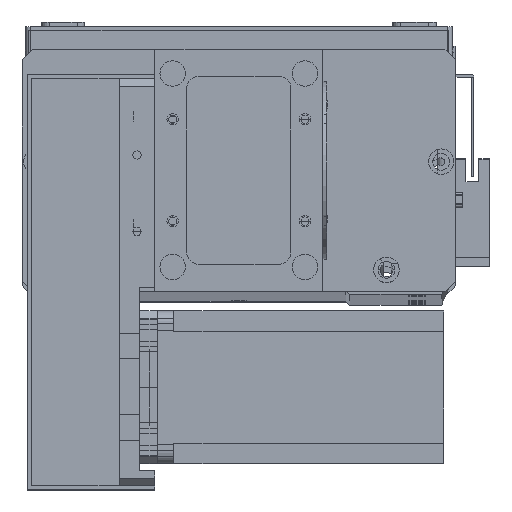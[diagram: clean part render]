
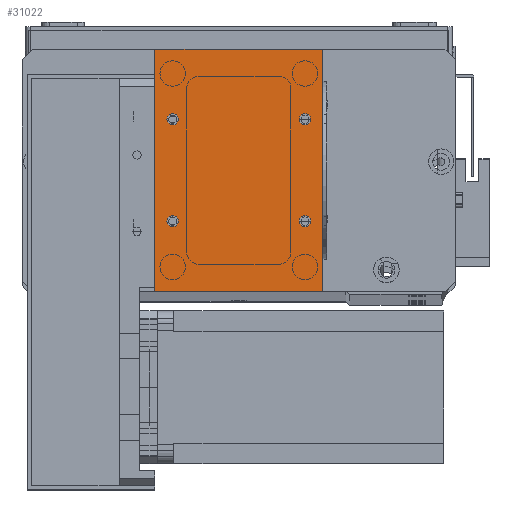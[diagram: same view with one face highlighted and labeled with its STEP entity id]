
A CAD part, top view. The second image highlights one B-rep face of the part: STEP entity #31022.
In plain terms, the highlighted planar face has unit normal (0, 0, 1).
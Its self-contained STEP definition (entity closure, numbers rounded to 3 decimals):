
#155 = AXIS2_PLACEMENT_3D ( 'NONE', #22989, #19580, #27764 ) ;
#1109 = VERTEX_POINT ( 'NONE', #24146 ) ;
#1481 = DIRECTION ( 'NONE',  ( 1., 0., 0. ) ) ;
#1488 = EDGE_CURVE ( 'NONE', #21375, #29492, #14587, .T. ) ;
#2319 = DIRECTION ( 'NONE',  ( 0., 0., 1. ) ) ;
#2461 = CIRCLE ( 'NONE', #17019, 2.25 ) ;
#2514 = ORIENTED_EDGE ( 'NONE', *, *, #10980, .F. ) ;
#2629 = EDGE_CURVE ( 'NONE', #1109, #15066, #19060, .T. ) ;
#3374 = PLANE ( 'NONE',  #11447 ) ;
#3897 = DIRECTION ( 'NONE',  ( 1., 0., 0. ) ) ;
#4209 = EDGE_CURVE ( 'NONE', #15066, #1109, #9950, .T. ) ;
#4923 = CARTESIAN_POINT ( 'NONE',  ( 7., 67.5, 2. ) ) ;
#5077 = CARTESIAN_POINT ( 'NONE',  ( 0., 0., 2. ) ) ;
#5489 = EDGE_CURVE ( 'NONE', #29492, #21375, #2461, .T. ) ;
#5652 = FACE_BOUND ( 'NONE', #31717, .T. ) ;
#5748 = EDGE_CURVE ( 'NONE', #11656, #25660, #26626, .T. ) ;
#5857 = CARTESIAN_POINT ( 'NONE',  ( 66., 95., 2. ) ) ;
#5942 = ORIENTED_EDGE ( 'NONE', *, *, #5489, .F. ) ;
#6021 = DIRECTION ( 'NONE',  ( 0., 0., -1. ) ) ;
#6047 = DIRECTION ( 'NONE',  ( 0., 0., 1. ) ) ;
#6307 = DIRECTION ( 'NONE',  ( 0., 0., 1. ) ) ;
#6512 = FACE_BOUND ( 'NONE', #16276, .T. ) ;
#7662 = CARTESIAN_POINT ( 'NONE',  ( 4.75, 27.5, 2. ) ) ;
#7937 = AXIS2_PLACEMENT_3D ( 'NONE', #22034, #6307, #24636 ) ;
#8083 = CARTESIAN_POINT ( 'NONE',  ( 0., 95., 2. ) ) ;
#8193 = AXIS2_PLACEMENT_3D ( 'NONE', #21782, #6047, #24391 ) ;
#9189 = DIRECTION ( 'NONE',  ( 0., 0., 1. ) ) ;
#9245 = AXIS2_PLACEMENT_3D ( 'NONE', #4923, #31969, #20695 ) ;
#9507 = VERTEX_POINT ( 'NONE', #23368 ) ;
#9717 = VECTOR ( 'NONE', #17451, 1000. ) ;
#9752 = ORIENTED_EDGE ( 'NONE', *, *, #4209, .F. ) ;
#9950 = CIRCLE ( 'NONE', #22058, 2.25 ) ;
#10127 = AXIS2_PLACEMENT_3D ( 'NONE', #11070, #11040, #11033 ) ;
#10976 = EDGE_CURVE ( 'NONE', #25660, #15373, #25079, .T. ) ;
#10980 = EDGE_CURVE ( 'NONE', #29243, #9507, #17306, .T. ) ;
#11033 = DIRECTION ( 'NONE',  ( 1., 0., 0. ) ) ;
#11040 = DIRECTION ( 'NONE',  ( 0., 0., 1. ) ) ;
#11070 = CARTESIAN_POINT ( 'NONE',  ( 59., 67.5, 2. ) ) ;
#11311 = VERTEX_POINT ( 'NONE', #7662 ) ;
#11344 = LINE ( 'NONE', #27562, #24454 ) ;
#11447 = AXIS2_PLACEMENT_3D ( 'NONE', #21747, #6021, #24369 ) ;
#11656 = VERTEX_POINT ( 'NONE', #5857 ) ;
#12174 = ORIENTED_EDGE ( 'NONE', *, *, #32297, .T. ) ;
#12643 = FACE_OUTER_BOUND ( 'NONE', #12954, .T. ) ;
#12954 = EDGE_LOOP ( 'NONE', ( #29588, #12174, #27932, #23582 ) ) ;
#13298 = CIRCLE ( 'NONE', #24317, 2.25 ) ;
#13370 = VERTEX_POINT ( 'NONE', #20683 ) ;
#13685 = CARTESIAN_POINT ( 'NONE',  ( 61.25, 27.5, 2. ) ) ;
#14459 = CARTESIAN_POINT ( 'NONE',  ( 7., 67.5, 2. ) ) ;
#14587 = CIRCLE ( 'NONE', #9245, 2.25 ) ;
#15066 = VERTEX_POINT ( 'NONE', #30139 ) ;
#15373 = VERTEX_POINT ( 'NONE', #5077 ) ;
#16276 = EDGE_LOOP ( 'NONE', ( #5942, #29476 ) ) ;
#16690 = LINE ( 'NONE', #22606, #9717 ) ;
#17019 = AXIS2_PLACEMENT_3D ( 'NONE', #14459, #9189, #3897 ) ;
#17151 = CARTESIAN_POINT ( 'NONE',  ( 0., 0., 2. ) ) ;
#17249 = DIRECTION ( 'NONE',  ( 0., 0., 1. ) ) ;
#17306 = CIRCLE ( 'NONE', #155, 2.25 ) ;
#17451 = DIRECTION ( 'NONE',  ( 0., 1., 0. ) ) ;
#17743 = CIRCLE ( 'NONE', #8193, 2.25 ) ;
#18132 = VECTOR ( 'NONE', #20370, 1000. ) ;
#18542 = EDGE_CURVE ( 'NONE', #11311, #13370, #30299, .T. ) ;
#19060 = CIRCLE ( 'NONE', #10127, 2.25 ) ;
#19073 = ORIENTED_EDGE ( 'NONE', *, *, #19344, .F. ) ;
#19344 = EDGE_CURVE ( 'NONE', #13370, #11311, #17743, .T. ) ;
#19580 = DIRECTION ( 'NONE',  ( 0., 0., 1. ) ) ;
#19643 = FACE_BOUND ( 'NONE', #24034, .T. ) ;
#19887 = CARTESIAN_POINT ( 'NONE',  ( 66., 0., 2. ) ) ;
#20370 = DIRECTION ( 'NONE',  ( 0., -1., 0. ) ) ;
#20683 = CARTESIAN_POINT ( 'NONE',  ( 9.25, 27.5, 2. ) ) ;
#20695 = DIRECTION ( 'NONE',  ( 1., 0., 0. ) ) ;
#20868 = CARTESIAN_POINT ( 'NONE',  ( 59., 67.5, 2. ) ) ;
#21375 = VERTEX_POINT ( 'NONE', #25837 ) ;
#21747 = CARTESIAN_POINT ( 'NONE',  ( 0., 0., 2. ) ) ;
#21782 = CARTESIAN_POINT ( 'NONE',  ( 7., 27.5, 2. ) ) ;
#21830 = ORIENTED_EDGE ( 'NONE', *, *, #2629, .F. ) ;
#22034 = CARTESIAN_POINT ( 'NONE',  ( 7., 27.5, 2. ) ) ;
#22058 = AXIS2_PLACEMENT_3D ( 'NONE', #20868, #2319, #23265 ) ;
#22606 = CARTESIAN_POINT ( 'NONE',  ( 66., 0., 2. ) ) ;
#22708 = VERTEX_POINT ( 'NONE', #19887 ) ;
#22989 = CARTESIAN_POINT ( 'NONE',  ( 59., 27.5, 2. ) ) ;
#23265 = DIRECTION ( 'NONE',  ( 1., 0., 0. ) ) ;
#23368 = CARTESIAN_POINT ( 'NONE',  ( 56.75, 27.5, 2. ) ) ;
#23582 = ORIENTED_EDGE ( 'NONE', *, *, #5748, .T. ) ;
#24034 = EDGE_LOOP ( 'NONE', ( #21830, #9752 ) ) ;
#24146 = CARTESIAN_POINT ( 'NONE',  ( 61.25, 67.5, 2. ) ) ;
#24249 = EDGE_CURVE ( 'NONE', #9507, #29243, #13298, .T. ) ;
#24317 = AXIS2_PLACEMENT_3D ( 'NONE', #32792, #17249, #1481 ) ;
#24369 = DIRECTION ( 'NONE',  ( -1., 0., 0. ) ) ;
#24391 = DIRECTION ( 'NONE',  ( 1., 0., 0. ) ) ;
#24454 = VECTOR ( 'NONE', #24958, 1000. ) ;
#24636 = DIRECTION ( 'NONE',  ( 1., 0., 0. ) ) ;
#24707 = ORIENTED_EDGE ( 'NONE', *, *, #24249, .F. ) ;
#24958 = DIRECTION ( 'NONE',  ( 1., 0., 0. ) ) ;
#25079 = LINE ( 'NONE', #17151, #18132 ) ;
#25660 = VERTEX_POINT ( 'NONE', #32089 ) ;
#25837 = CARTESIAN_POINT ( 'NONE',  ( 4.75, 67.5, 2. ) ) ;
#25945 = DIRECTION ( 'NONE',  ( -1., 0., 0. ) ) ;
#26048 = EDGE_LOOP ( 'NONE', ( #2514, #24707 ) ) ;
#26552 = FACE_BOUND ( 'NONE', #26048, .T. ) ;
#26626 = LINE ( 'NONE', #8083, #27449 ) ;
#27449 = VECTOR ( 'NONE', #25945, 1000. ) ;
#27562 = CARTESIAN_POINT ( 'NONE',  ( 0., 0., 2. ) ) ;
#27764 = DIRECTION ( 'NONE',  ( 1., 0., 0. ) ) ;
#27932 = ORIENTED_EDGE ( 'NONE', *, *, #31815, .T. ) ;
#29243 = VERTEX_POINT ( 'NONE', #13685 ) ;
#29476 = ORIENTED_EDGE ( 'NONE', *, *, #1488, .F. ) ;
#29492 = VERTEX_POINT ( 'NONE', #30220 ) ;
#29588 = ORIENTED_EDGE ( 'NONE', *, *, #10976, .T. ) ;
#30139 = CARTESIAN_POINT ( 'NONE',  ( 56.75, 67.5, 2. ) ) ;
#30220 = CARTESIAN_POINT ( 'NONE',  ( 9.25, 67.5, 2. ) ) ;
#30299 = CIRCLE ( 'NONE', #7937, 2.25 ) ;
#31022 = ADVANCED_FACE ( 'NONE', ( #6512, #19643, #26552, #5652, #12643 ), #3374, .F. ) ;
#31717 = EDGE_LOOP ( 'NONE', ( #19073, #32911 ) ) ;
#31815 = EDGE_CURVE ( 'NONE', #22708, #11656, #16690, .T. ) ;
#31969 = DIRECTION ( 'NONE',  ( 0., 0., 1. ) ) ;
#32089 = CARTESIAN_POINT ( 'NONE',  ( 0., 95., 2. ) ) ;
#32297 = EDGE_CURVE ( 'NONE', #15373, #22708, #11344, .T. ) ;
#32792 = CARTESIAN_POINT ( 'NONE',  ( 59., 27.5, 2. ) ) ;
#32911 = ORIENTED_EDGE ( 'NONE', *, *, #18542, .F. ) ;
